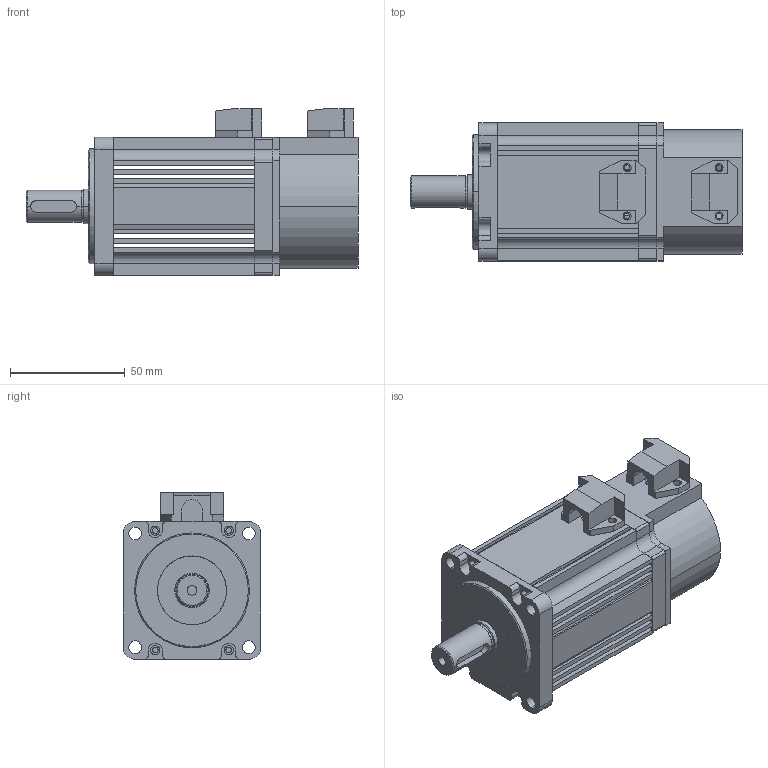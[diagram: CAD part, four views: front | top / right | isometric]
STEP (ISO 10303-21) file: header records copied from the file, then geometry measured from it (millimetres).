
FILE_DESCRIPTION (( 'STEP AP203' ), '1' );
FILE_NAME ('MS-60STE-M00630B-20P2.STEP', '2019-12-13T06:11:14', ( '' ), ( '' ), 'SwSTEP 2.0', 'SolidWorks 2016', '' );
FILE_SCHEMA (( 'CONFIG_CONTROL_DESIGN' ));
Length unit declared in the file: millimetre
Products named in the file (1): MS-60STE-M00630B-20P2
Bounding box: 144.5 x 60 x 72.5 mm (x, y, z)
Surface area: 47306.6 mm2 (no closed solid volume)
Topology: 0 solids, 9 shells, 278 faces, 853 edges, 587 vertices
Faces by surface type: plane 170, cylinder 98, cone 10
Entity records: 9975 total; most frequent: CARTESIAN_POINT 2109, DIRECTION 1660, ORIENTED_EDGE 1476, EDGE_CURVE 853, VECTOR 592, LINE 592, VERTEX_POINT 587, AXIS2_PLACEMENT_3D 534
